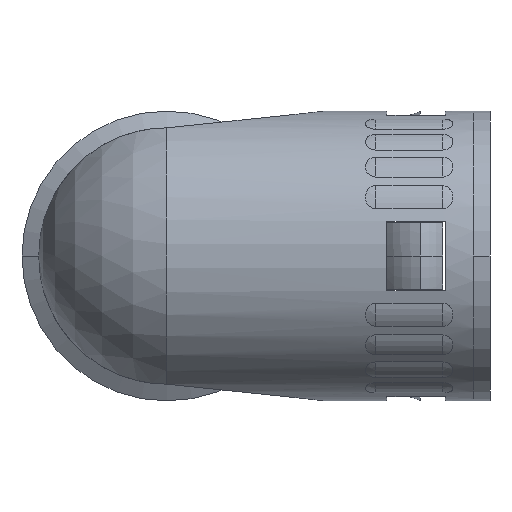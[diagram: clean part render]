
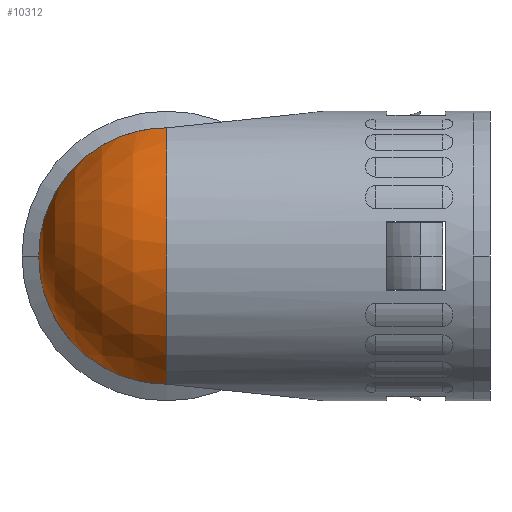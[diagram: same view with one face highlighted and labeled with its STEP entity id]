
A CAD part, left-side view. The second image highlights one B-rep face of the part: STEP entity #10312.
In plain terms, the highlighted spherical face has radius 26.196 mm.
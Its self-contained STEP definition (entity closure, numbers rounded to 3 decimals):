
#232 = CARTESIAN_POINT ( 'NONE',  ( -7.031, 70.308, 17.232 ) ) ;
#363 = CARTESIAN_POINT ( 'NONE',  ( -2.761, 76.81, 7.311 ) ) ;
#619 = CARTESIAN_POINT ( 'NONE',  ( -12.124, 55., 23. ) ) ;
#1169 = CARTESIAN_POINT ( 'NONE',  ( -12.124, 55., 23. ) ) ;
#1208 = CARTESIAN_POINT ( 'NONE',  ( -11.923, 55.765, 23. ) ) ;
#1284 = CARTESIAN_POINT ( 'NONE',  ( -5.46, 73.347, 13.891 ) ) ;
#1333 = DIRECTION ( 'NONE',  ( 0., 1., 0. ) ) ;
#1361 = CIRCLE ( 'NONE', #9880, 26. ) ;
#1387 = CARTESIAN_POINT ( 'NONE',  ( -2.623, 76.926, -6.956 ) ) ;
#1414 = DIRECTION ( 'NONE',  ( 1., 0., 0. ) ) ;
#1430 = CARTESIAN_POINT ( 'NONE',  ( -0.696, 77.927, -1.866 ) ) ;
#1576 = CARTESIAN_POINT ( 'NONE',  ( -7.031, 70.308, -17.232 ) ) ;
#1618 = CARTESIAN_POINT ( 'NONE',  ( -11.071, 58.825, -22.683 ) ) ;
#2054 = CARTESIAN_POINT ( 'NONE',  ( -0.349, 77.982, 0.935 ) ) ;
#2089 = CARTESIAN_POINT ( 'NONE',  ( -0.14, 77.998, 0.374 ) ) ;
#2127 = CARTESIAN_POINT ( 'NONE',  ( -4.397, 75.019, 11.422 ) ) ;
#2168 = CARTESIAN_POINT ( 'NONE',  ( -8.278, 67.288, 19.457 ) ) ;
#2419 = EDGE_CURVE ( 'NONE', #7709, #10555, #6150, .T. ) ;
#2427 = CARTESIAN_POINT ( 'NONE',  ( -1.936, 77.425, -5.164 ) ) ;
#2463 = CARTESIAN_POINT ( 'NONE',  ( -1.387, 77.711, -3.709 ) ) ;
#2951 = CARTESIAN_POINT ( 'NONE',  ( -11.288, 58.064, 22.798 ) ) ;
#3023 = CARTESIAN_POINT ( 'NONE',  ( -11.397, 57.68, 22.847 ) ) ;
#3106 = CARTESIAN_POINT ( 'NONE',  ( -3.861, 75.715, 10.106 ) ) ;
#3247 = CARTESIAN_POINT ( 'NONE',  ( -0.279, 77.989, -0.749 ) ) ;
#3332 = CARTESIAN_POINT ( 'NONE',  ( 0., 78., 0. ) ) ;
#3407 = CARTESIAN_POINT ( 'NONE',  ( -7.535, 69.156, -18.19 ) ) ;
#3488 = CARTESIAN_POINT ( 'NONE',  ( -11.923, 55.765, -23. ) ) ;
#3572 = CARTESIAN_POINT ( 'NONE',  ( -9.012, 65.302, -20.578 ) ) ;
#3922 = CARTESIAN_POINT ( 'NONE',  ( -0.279, 77.989, 0.749 ) ) ;
#4115 = ORIENTED_EDGE ( 'NONE', *, *, #2419, .T. ) ;
#4186 = CARTESIAN_POINT ( 'NONE',  ( -2.761, 76.81, -7.311 ) ) ;
#4449 = CARTESIAN_POINT ( 'NONE',  ( -11.716, 56.531, -22.962 ) ) ;
#4493 = CARTESIAN_POINT ( 'NONE',  ( -5.46, 73.347, -13.891 ) ) ;
#4533 = CARTESIAN_POINT ( 'NONE',  ( 0., 55., 0. ) ) ;
#4769 = CARTESIAN_POINT ( 'NONE',  ( -0.696, 77.927, 1.866 ) ) ;
#4814 = CARTESIAN_POINT ( 'NONE',  ( -9.012, 65.302, 20.578 ) ) ;
#4851 = AXIS2_PLACEMENT_3D ( 'NONE', #6849, #1333, #1414 ) ;
#4855 = CARTESIAN_POINT ( 'NONE',  ( -5.195, 73.788, 13.287 ) ) ;
#5104 = CARTESIAN_POINT ( 'NONE',  ( -0.14, 77.998, -0.374 ) ) ;
#5224 = CARTESIAN_POINT ( 'NONE',  ( -9.958, 62.519, -21.789 ) ) ;
#5732 = CARTESIAN_POINT ( 'NONE',  ( -1.936, 77.425, 5.164 ) ) ;
#5766 = CARTESIAN_POINT ( 'NONE',  ( -11.716, 56.531, 22.962 ) ) ;
#5805 = CARTESIAN_POINT ( 'NONE',  ( -1.111, 77.819, 2.976 ) ) ;
#5840 = ORIENTED_EDGE ( 'NONE', *, *, #7173, .F. ) ;
#5946 = CARTESIAN_POINT ( 'NONE',  ( -5.195, 73.788, -13.287 ) ) ;
#6102 = CARTESIAN_POINT ( 'NONE',  ( -0.557, 77.954, -1.495 ) ) ;
#6135 = CARTESIAN_POINT ( 'NONE',  ( -10.962, 59.202, -22.616 ) ) ;
#6150 = B_SPLINE_CURVE_WITH_KNOTS ( 'NONE', 3,
 ( #3332, #6976, #5104, #3247, #7895, #6102, #1430, #11443, #2463, #2427, #8824, #1387, #4186, #10614, #11526, #7016, #7935, #5946, #4493, #8140, #10853, #1576, #3407, #11762, #9840, #3572, #7977, #5224, #11637, #6135, #1618, #9058, #6250, #4449, #3488, #9923 ),
 .UNSPECIFIED., .F., .F.,
 ( 4, 2, 2, 2, 2, 2, 2, 2, 2, 2, 2, 2, 2, 2, 2, 2, 2, 4 ),
 ( 0., 0.001, 0.001, 0.002, 0.005, 0.007, 0.008, 0.009, 0.014, 0.017, 0.019, 0.024, 0.026, 0.028, 0.033, 0.034, 0.035, 0.038 ),
 .UNSPECIFIED. ) ;
#6250 = CARTESIAN_POINT ( 'NONE',  ( -11.397, 57.68, -22.847 ) ) ;
#6316 = CARTESIAN_POINT ( 'NONE',  ( -12.124, 55., -23. ) ) ;
#6643 = CARTESIAN_POINT ( 'NONE',  ( -7.535, 69.156, 18.19 ) ) ;
#6723 = CARTESIAN_POINT ( 'NONE',  ( -6.253, 71.894, 15.626 ) ) ;
#6849 = CARTESIAN_POINT ( 'NONE',  ( 0., 51.804, 0. ) ) ;
#6976 = CARTESIAN_POINT ( 'NONE',  ( -0.069, 78., -0.185 ) ) ;
#7016 = CARTESIAN_POINT ( 'NONE',  ( -3.861, 75.715, -10.106 ) ) ;
#7053 = SPHERICAL_SURFACE ( 'NONE', #4851, 26.196 ) ;
#7173 = EDGE_CURVE ( 'NONE', #7709, #7996, #7313, .T. ) ;
#7313 = B_SPLINE_CURVE_WITH_KNOTS ( 'NONE', 3,
 ( #7596, #7524, #2089, #3922, #2054, #10356, #4769, #5805, #8496, #5732, #9410, #10316, #363, #10397, #8460, #3106, #2127, #4855, #1284, #11312, #6723, #232, #6643, #2168, #8540, #4814, #11279, #9370, #8613, #11238, #8576, #2951, #3023, #5766, #1208, #1169 ),
 .UNSPECIFIED., .F., .F.,
 ( 4, 2, 2, 2, 2, 2, 2, 2, 2, 2, 2, 2, 2, 2, 2, 2, 2, 4 ),
 ( 0., 0.001, 0.001, 0.002, 0.005, 0.007, 0.008, 0.009, 0.014, 0.017, 0.019, 0.024, 0.026, 0.028, 0.033, 0.034, 0.035, 0.038 ),
 .UNSPECIFIED. ) ;
#7457 = EDGE_LOOP ( 'NONE', ( #5840, #4115, #7731 ) ) ;
#7524 = CARTESIAN_POINT ( 'NONE',  ( -0.069, 78., 0.185 ) ) ;
#7596 = CARTESIAN_POINT ( 'NONE',  ( 0., 78., 0. ) ) ;
#7709 = VERTEX_POINT ( 'NONE', #8366 ) ;
#7731 = ORIENTED_EDGE ( 'NONE', *, *, #8200, .T. ) ;
#7770 = FACE_OUTER_BOUND ( 'NONE', #7457, .T. ) ;
#7895 = CARTESIAN_POINT ( 'NONE',  ( -0.349, 77.982, -0.935 ) ) ;
#7935 = CARTESIAN_POINT ( 'NONE',  ( -4.397, 75.019, -11.422 ) ) ;
#7977 = CARTESIAN_POINT ( 'NONE',  ( -9.253, 64.614, -20.908 ) ) ;
#7996 = VERTEX_POINT ( 'NONE', #619 ) ;
#8140 = CARTESIAN_POINT ( 'NONE',  ( -5.988, 72.401, -15.059 ) ) ;
#8200 = EDGE_CURVE ( 'NONE', #10555, #7996, #1361, .T. ) ;
#8366 = CARTESIAN_POINT ( 'NONE',  ( 0., 78., 0. ) ) ;
#8460 = CARTESIAN_POINT ( 'NONE',  ( -3.175, 76.426, 8.37 ) ) ;
#8496 = CARTESIAN_POINT ( 'NONE',  ( -1.387, 77.711, 3.709 ) ) ;
#8540 = CARTESIAN_POINT ( 'NONE',  ( -8.524, 66.642, 19.851 ) ) ;
#8576 = CARTESIAN_POINT ( 'NONE',  ( -11.071, 58.825, 22.683 ) ) ;
#8613 = CARTESIAN_POINT ( 'NONE',  ( -10.411, 61.072, 22.236 ) ) ;
#8824 = CARTESIAN_POINT ( 'NONE',  ( -2.211, 77.247, -5.884 ) ) ;
#8919 = DIRECTION ( 'NONE',  ( 0., 0., 1. ) ) ;
#9058 = CARTESIAN_POINT ( 'NONE',  ( -11.288, 58.064, -22.798 ) ) ;
#9062 = DIRECTION ( 'NONE',  ( 0., 1., 0. ) ) ;
#9370 = CARTESIAN_POINT ( 'NONE',  ( -9.958, 62.519, 21.789 ) ) ;
#9410 = CARTESIAN_POINT ( 'NONE',  ( -2.211, 77.247, 5.884 ) ) ;
#9840 = CARTESIAN_POINT ( 'NONE',  ( -8.524, 66.642, -19.851 ) ) ;
#9880 = AXIS2_PLACEMENT_3D ( 'NONE', #4533, #9062, #8919 ) ;
#9923 = CARTESIAN_POINT ( 'NONE',  ( -12.124, 55., -23. ) ) ;
#10312 = ADVANCED_FACE ( 'NONE', ( #7770 ), #7053, .T. ) ;
#10316 = CARTESIAN_POINT ( 'NONE',  ( -2.623, 76.926, 6.956 ) ) ;
#10356 = CARTESIAN_POINT ( 'NONE',  ( -0.557, 77.954, 1.495 ) ) ;
#10397 = CARTESIAN_POINT ( 'NONE',  ( -3.036, 76.56, 8.018 ) ) ;
#10555 = VERTEX_POINT ( 'NONE', #6316 ) ;
#10614 = CARTESIAN_POINT ( 'NONE',  ( -3.036, 76.56, -8.018 ) ) ;
#10853 = CARTESIAN_POINT ( 'NONE',  ( -6.253, 71.894, -15.626 ) ) ;
#11238 = CARTESIAN_POINT ( 'NONE',  ( -10.962, 59.202, 22.616 ) ) ;
#11279 = CARTESIAN_POINT ( 'NONE',  ( -9.253, 64.614, 20.908 ) ) ;
#11312 = CARTESIAN_POINT ( 'NONE',  ( -5.988, 72.401, 15.059 ) ) ;
#11443 = CARTESIAN_POINT ( 'NONE',  ( -1.111, 77.819, -2.976 ) ) ;
#11526 = CARTESIAN_POINT ( 'NONE',  ( -3.175, 76.426, -8.37 ) ) ;
#11637 = CARTESIAN_POINT ( 'NONE',  ( -10.411, 61.072, -22.236 ) ) ;
#11762 = CARTESIAN_POINT ( 'NONE',  ( -8.278, 67.288, -19.457 ) ) ;
